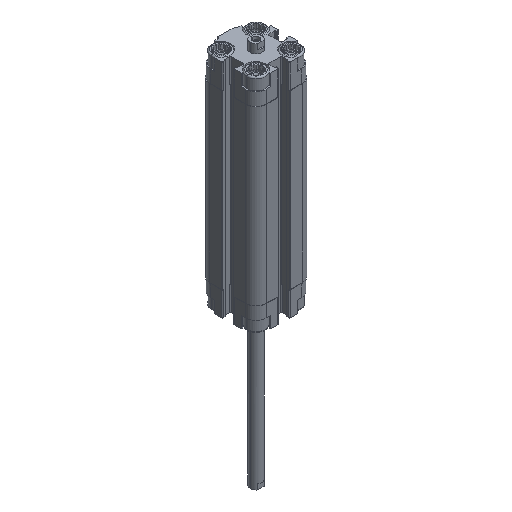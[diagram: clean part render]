
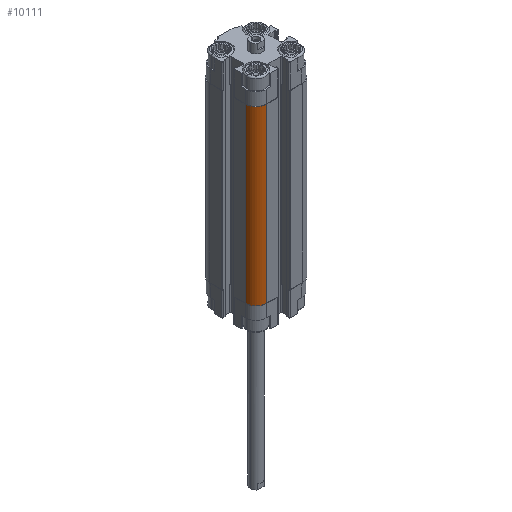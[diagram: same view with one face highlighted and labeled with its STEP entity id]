
A CAD part, isometric view. The second image highlights one B-rep face of the part: STEP entity #10111.
In plain terms, the highlighted cylindrical face has radius 5.5 mm (diameter 11 mm), a partial arc.
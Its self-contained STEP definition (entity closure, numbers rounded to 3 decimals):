
#543 = EDGE_CURVE ( 'NONE', #16776, #17200, #16970, .T. ) ;
#671 = AXIS2_PLACEMENT_3D ( 'NONE', #3416, #8910, #2068 ) ;
#1484 = AXIS2_PLACEMENT_3D ( 'NONE', #8531, #11671, #16867 ) ;
#1552 = DIRECTION ( 'NONE',  ( 0., 0., 1. ) ) ;
#2068 = DIRECTION ( 'NONE',  ( -1., 0., 0. ) ) ;
#3139 = EDGE_CURVE ( 'NONE', #15411, #14391, #15677, .T. ) ;
#3355 = CARTESIAN_POINT ( 'NONE',  ( -14.5, -9., -100.5 ) ) ;
#3416 = CARTESIAN_POINT ( 'NONE',  ( -9., -9., -100.5 ) ) ;
#3557 = EDGE_CURVE ( 'NONE', #17200, #14391, #16523, .T. ) ;
#3862 = DIRECTION ( 'NONE',  ( 0., 0., 1. ) ) ;
#3871 = ORIENTED_EDGE ( 'NONE', *, *, #543, .T. ) ;
#7983 = CARTESIAN_POINT ( 'NONE',  ( -14.5, -9., -12.5 ) ) ;
#8531 = CARTESIAN_POINT ( 'NONE',  ( -9., -9., -100.5 ) ) ;
#8826 = CARTESIAN_POINT ( 'NONE',  ( -9., -14.5, -100.5 ) ) ;
#8910 = DIRECTION ( 'NONE',  ( 0., 0., -1. ) ) ;
#9387 = AXIS2_PLACEMENT_3D ( 'NONE', #13861, #16453, #17629 ) ;
#9464 = EDGE_LOOP ( 'NONE', ( #12149, #12822, #3871, #15688 ) ) ;
#10111 = ADVANCED_FACE ( 'NONE', ( #10264 ), #15728, .T. ) ;
#10264 = FACE_OUTER_BOUND ( 'NONE', #9464, .T. ) ;
#10801 = VECTOR ( 'NONE', #3862, 1000. ) ;
#11087 = LINE ( 'NONE', #15291, #11849 ) ;
#11174 = EDGE_CURVE ( 'NONE', #16776, #15411, #11087, .T. ) ;
#11671 = DIRECTION ( 'NONE',  ( 0., 0., 1. ) ) ;
#11849 = VECTOR ( 'NONE', #1552, 1000. ) ;
#12149 = ORIENTED_EDGE ( 'NONE', *, *, #3139, .F. ) ;
#12822 = ORIENTED_EDGE ( 'NONE', *, *, #11174, .F. ) ;
#13861 = CARTESIAN_POINT ( 'NONE',  ( -9., -9., -12.5 ) ) ;
#14391 = VERTEX_POINT ( 'NONE', #15849 ) ;
#15291 = CARTESIAN_POINT ( 'NONE',  ( -14.5, -9., -100.5 ) ) ;
#15411 = VERTEX_POINT ( 'NONE', #7983 ) ;
#15677 = CIRCLE ( 'NONE', #9387, 5.5 ) ;
#15688 = ORIENTED_EDGE ( 'NONE', *, *, #3557, .T. ) ;
#15728 = CYLINDRICAL_SURFACE ( 'NONE', #671, 5.5 ) ;
#15849 = CARTESIAN_POINT ( 'NONE',  ( -9., -14.5, -12.5 ) ) ;
#16339 = CARTESIAN_POINT ( 'NONE',  ( -9., -14.5, -100.5 ) ) ;
#16453 = DIRECTION ( 'NONE',  ( 0., 0., 1. ) ) ;
#16523 = LINE ( 'NONE', #16339, #10801 ) ;
#16776 = VERTEX_POINT ( 'NONE', #3355 ) ;
#16867 = DIRECTION ( 'NONE',  ( -1., 0., 0. ) ) ;
#16970 = CIRCLE ( 'NONE', #1484, 5.5 ) ;
#17200 = VERTEX_POINT ( 'NONE', #8826 ) ;
#17629 = DIRECTION ( 'NONE',  ( -1., 0., 0. ) ) ;
